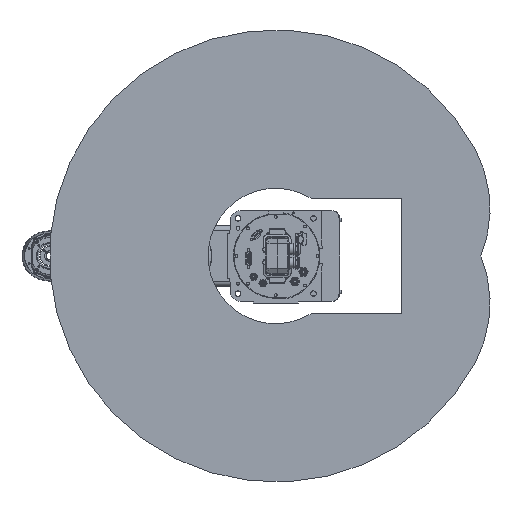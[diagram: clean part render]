
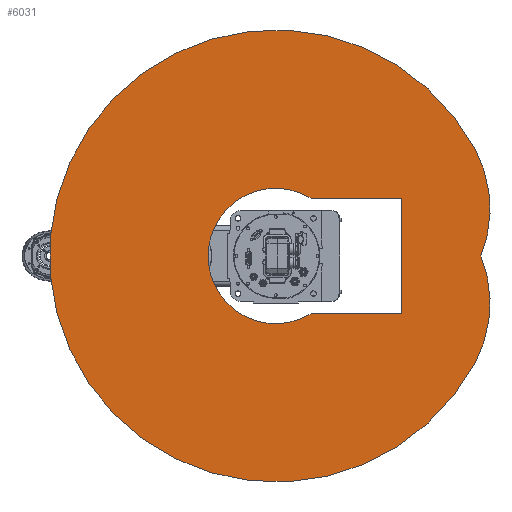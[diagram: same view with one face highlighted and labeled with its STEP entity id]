
A CAD part, front view. The second image highlights one B-rep face of the part: STEP entity #6031.
In plain terms, the highlighted planar face has unit normal (0, -1, 0).
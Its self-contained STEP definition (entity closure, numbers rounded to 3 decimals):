
#6031 = ADVANCED_FACE( '', ( #13699, #13700 ), #13701, .F. );
#13699 = FACE_OUTER_BOUND( '', #23575, .T. );
#13700 = FACE_BOUND( '', #23576, .T. );
#13701 = PLANE( '', #23577 );
#23575 = EDGE_LOOP( '', ( #40912, #40913, #40914 ) );
#23576 = EDGE_LOOP( '', ( #40915, #40916, #40917, #40918 ) );
#23577 = AXIS2_PLACEMENT_3D( '', #40919, #40920, #40921 );
#40912 = ORIENTED_EDGE( '', *, *, #53084, .F. );
#40913 = ORIENTED_EDGE( '', *, *, #54437, .F. );
#40914 = ORIENTED_EDGE( '', *, *, #57222, .F. );
#40915 = ORIENTED_EDGE( '', *, *, #56435, .T. );
#40916 = ORIENTED_EDGE( '', *, *, #57535, .T. );
#40917 = ORIENTED_EDGE( '', *, *, #52360, .T. );
#40918 = ORIENTED_EDGE( '', *, *, #57536, .T. );
#40919 = CARTESIAN_POINT( '', ( 46.947, 0., 88.295 ) );
#40920 = DIRECTION( '', ( 0., 1., 0. ) );
#40921 = DIRECTION( '', ( 0., 0., 1. ) );
#52360 = EDGE_CURVE( '', #62001, #62002, #62003, .T. );
#53084 = EDGE_CURVE( '', #63249, #63250, #63251, .T. );
#54437 = EDGE_CURVE( '', #65447, #63249, #65448, .T. );
#56435 = EDGE_CURVE( '', #68512, #68510, #68513, .T. );
#57222 = EDGE_CURVE( '', #63250, #65447, #69599, .T. );
#57535 = EDGE_CURVE( '', #68510, #62001, #70017, .T. );
#57536 = EDGE_CURVE( '', #62002, #68512, #70018, .T. );
#62001 = VERTEX_POINT( '', #76494 );
#62002 = VERTEX_POINT( '', #76495 );
#62003 = LINE( '', #76496, #76497 );
#63249 = VERTEX_POINT( '', #78870 );
#63250 = VERTEX_POINT( '', #78871 );
#63251 = CIRCLE( '', #78872, 250. );
#65447 = VERTEX_POINT( '', #82747 );
#65448 = CIRCLE( '', #82748, 250. );
#68510 = VERTEX_POINT( '', #88227 );
#68512 = VERTEX_POINT( '', #88230 );
#68513 = LINE( '', #88231, #88232 );
#69599 = CIRCLE( '', #90063, 450. );
#70017 = LINE( '', #90837, #90838 );
#70018 = CIRCLE( '', #90839, 134.76 );
#76494 = CARTESIAN_POINT( '', ( 115., 0., 250. ) );
#76495 = CARTESIAN_POINT( '', ( 115., 0., 70.251 ) );
#76496 = CARTESIAN_POINT( '', ( 115., 0., 250. ) );
#76497 = VECTOR( '', #96999, 1000. );
#78870 = CARTESIAN_POINT( '', ( 0., 0., 408.287 ) );
#78871 = CARTESIAN_POINT( '', ( 211.262, 0., 397.326 ) );
#78872 = AXIS2_PLACEMENT_3D( '', #97810, #97811, #97812 );
#82747 = CARTESIAN_POINT( '', ( -211.262, 0., 397.326 ) );
#82748 = AXIS2_PLACEMENT_3D( '', #99445, #99446, #99447 );
#88227 = CARTESIAN_POINT( '', ( -115., 0., 250. ) );
#88230 = CARTESIAN_POINT( '', ( -115., 0., 70.251 ) );
#88231 = CARTESIAN_POINT( '', ( -115., 0., 0. ) );
#88232 = VECTOR( '', #101793, 1000. );
#90063 = AXIS2_PLACEMENT_3D( '', #102629, #102630, #102631 );
#90837 = CARTESIAN_POINT( '', ( -115., 0., 250. ) );
#90838 = VECTOR( '', #102938, 1000. );
#90839 = AXIS2_PLACEMENT_3D( '', #102939, #102940, #102941 );
#96999 = DIRECTION( '', ( 0., 0., -1. ) );
#97810 = CARTESIAN_POINT( '', ( 93.894, 0., 176.59 ) );
#97811 = DIRECTION( '', ( 0., 1., 0. ) );
#97812 = DIRECTION( '', ( 1., 0., 0. ) );
#99445 = CARTESIAN_POINT( '', ( -93.894, 0., 176.59 ) );
#99446 = DIRECTION( '', ( 0., 1., 0. ) );
#99447 = DIRECTION( '', ( 1., 0., 0. ) );
#101793 = DIRECTION( '', ( 0., 0., 1. ) );
#102629 = CARTESIAN_POINT( '', ( 0., 0., 0. ) );
#102630 = DIRECTION( '', ( 0., 1., 0. ) );
#102631 = DIRECTION( '', ( 1., 0., 0. ) );
#102938 = DIRECTION( '', ( 1., 0., 0. ) );
#102939 = CARTESIAN_POINT( '', ( 0., 0., 0. ) );
#102940 = DIRECTION( '', ( 0., 1., 0. ) );
#102941 = DIRECTION( '', ( 1., 0., 0. ) );
